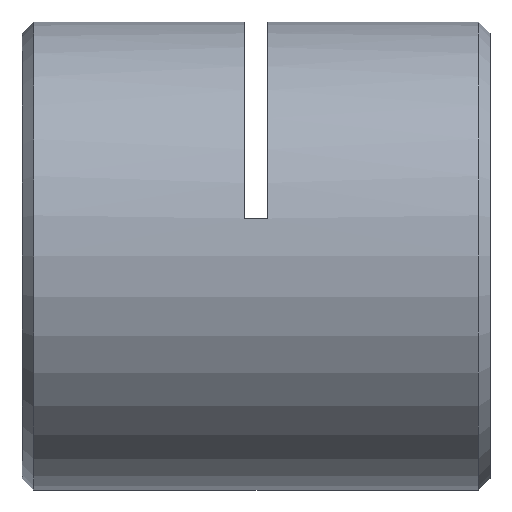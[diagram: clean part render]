
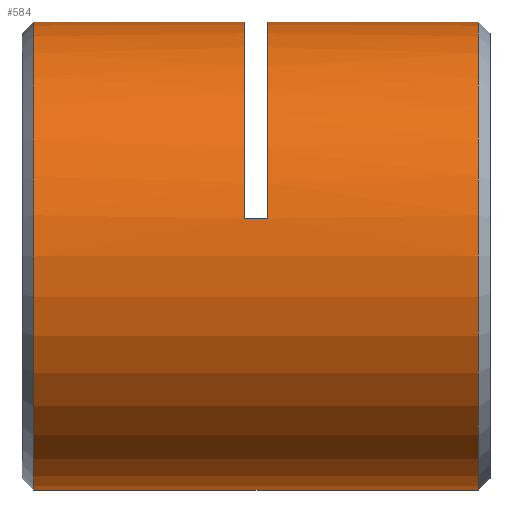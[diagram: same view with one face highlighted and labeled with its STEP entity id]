
A CAD part, left-side view. The second image highlights one B-rep face of the part: STEP entity #584.
In plain terms, the highlighted cylindrical face has radius 8 mm (diameter 16 mm), a partial arc.
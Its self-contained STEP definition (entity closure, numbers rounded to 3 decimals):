
#18 = AXIS2_PLACEMENT_3D ( 'NONE', #2301, #2613, #803 ) ;
#49 = DIRECTION ( 'NONE',  ( 0., 1., 0. ) ) ;
#173 = CARTESIAN_POINT ( 'NONE',  ( 0., 0.25, -8. ) ) ;
#185 = CARTESIAN_POINT ( 'NONE',  ( 0., 8.65, 0. ) ) ;
#279 = VECTOR ( 'NONE', #2294, 1000. ) ;
#306 = CARTESIAN_POINT ( 'NONE',  ( -7.897, 8.65, 1.28 ) ) ;
#327 = ORIENTED_EDGE ( 'NONE', *, *, #3688, .T. ) ;
#328 = EDGE_CURVE ( 'NONE', #1794, #1675, #2095, .T. ) ;
#359 = DIRECTION ( 'NONE',  ( 0., 0., -1. ) ) ;
#454 = VERTEX_POINT ( 'NONE', #306 ) ;
#513 = LINE ( 'NONE', #749, #3670 ) ;
#537 = ORIENTED_EDGE ( 'NONE', *, *, #1293, .F. ) ;
#552 = CIRCLE ( 'NONE', #1360, 8. ) ;
#584 = ADVANCED_FACE ( 'NONE', ( #716 ), #2224, .T. ) ;
#646 = LINE ( 'NONE', #3506, #1843 ) ;
#716 = FACE_OUTER_BOUND ( 'NONE', #1252, .T. ) ;
#732 = ORIENTED_EDGE ( 'NONE', *, *, #863, .T. ) ;
#749 = CARTESIAN_POINT ( 'NONE',  ( 0., 0.25, 8. ) ) ;
#803 = DIRECTION ( 'NONE',  ( 0., 0., 1. ) ) ;
#863 = EDGE_CURVE ( 'NONE', #2241, #1601, #3257, .T. ) ;
#973 = CARTESIAN_POINT ( 'NONE',  ( 0., 15.85, 0. ) ) ;
#1012 = CARTESIAN_POINT ( 'NONE',  ( 0., 7.85, 0. ) ) ;
#1252 = EDGE_LOOP ( 'NONE', ( #537, #732, #1322, #2666, #2269, #327, #3848, #3640 ) ) ;
#1293 = EDGE_CURVE ( 'NONE', #2241, #1791, #1847, .T. ) ;
#1306 = DIRECTION ( 'NONE',  ( 0., 0., 1. ) ) ;
#1322 = ORIENTED_EDGE ( 'NONE', *, *, #3438, .T. ) ;
#1360 = AXIS2_PLACEMENT_3D ( 'NONE', #973, #2168, #359 ) ;
#1418 = CARTESIAN_POINT ( 'NONE',  ( 0., 0.25, 0. ) ) ;
#1428 = DIRECTION ( 'NONE',  ( 0., 0., 1. ) ) ;
#1580 = EDGE_CURVE ( 'NONE', #2962, #1791, #552, .T. ) ;
#1601 = VERTEX_POINT ( 'NONE', #3677 ) ;
#1622 = DIRECTION ( 'NONE',  ( 0., 1., 0. ) ) ;
#1664 = CARTESIAN_POINT ( 'NONE',  ( 0., 0.65, -8. ) ) ;
#1675 = VERTEX_POINT ( 'NONE', #2191 ) ;
#1712 = DIRECTION ( 'NONE',  ( 0., 0., 1. ) ) ;
#1791 = VERTEX_POINT ( 'NONE', #3165 ) ;
#1794 = VERTEX_POINT ( 'NONE', #1973 ) ;
#1811 = EDGE_CURVE ( 'NONE', #1794, #454, #646, .T. ) ;
#1843 = VECTOR ( 'NONE', #1622, 1000. ) ;
#1847 = LINE ( 'NONE', #173, #279 ) ;
#1912 = CARTESIAN_POINT ( 'NONE',  ( 0., 0.25, 8. ) ) ;
#1973 = CARTESIAN_POINT ( 'NONE',  ( -7.897, 7.85, 1.28 ) ) ;
#1995 = DIRECTION ( 'NONE',  ( 0., 1., 0. ) ) ;
#2095 = CIRCLE ( 'NONE', #2820, 8. ) ;
#2166 = VECTOR ( 'NONE', #49, 1000. ) ;
#2168 = DIRECTION ( 'NONE',  ( 0., -1., 0. ) ) ;
#2191 = CARTESIAN_POINT ( 'NONE',  ( 0., 7.85, 8. ) ) ;
#2224 = CYLINDRICAL_SURFACE ( 'NONE', #3528, 8. ) ;
#2241 = VERTEX_POINT ( 'NONE', #1664 ) ;
#2269 = ORIENTED_EDGE ( 'NONE', *, *, #1811, .T. ) ;
#2294 = DIRECTION ( 'NONE',  ( 0., 1., 0. ) ) ;
#2301 = CARTESIAN_POINT ( 'NONE',  ( 0., 0.65, 0. ) ) ;
#2388 = VERTEX_POINT ( 'NONE', #3576 ) ;
#2394 = AXIS2_PLACEMENT_3D ( 'NONE', #185, #2656, #1428 ) ;
#2613 = DIRECTION ( 'NONE',  ( 0., 1., 0. ) ) ;
#2656 = DIRECTION ( 'NONE',  ( 0., 1., 0. ) ) ;
#2666 = ORIENTED_EDGE ( 'NONE', *, *, #328, .F. ) ;
#2820 = AXIS2_PLACEMENT_3D ( 'NONE', #1012, #3430, #1306 ) ;
#2881 = CIRCLE ( 'NONE', #2394, 8. ) ;
#2962 = VERTEX_POINT ( 'NONE', #3769 ) ;
#2993 = LINE ( 'NONE', #1912, #2166 ) ;
#3165 = CARTESIAN_POINT ( 'NONE',  ( 0., 15.85, -8. ) ) ;
#3257 = CIRCLE ( 'NONE', #18, 8. ) ;
#3430 = DIRECTION ( 'NONE',  ( 0., 1., 0. ) ) ;
#3438 = EDGE_CURVE ( 'NONE', #1601, #1675, #2993, .T. ) ;
#3475 = DIRECTION ( 'NONE',  ( 0., 1., 0. ) ) ;
#3506 = CARTESIAN_POINT ( 'NONE',  ( -7.897, 8.25, 1.28 ) ) ;
#3528 = AXIS2_PLACEMENT_3D ( 'NONE', #1418, #1995, #1712 ) ;
#3570 = EDGE_CURVE ( 'NONE', #2388, #2962, #513, .T. ) ;
#3576 = CARTESIAN_POINT ( 'NONE',  ( 0., 8.65, 8. ) ) ;
#3640 = ORIENTED_EDGE ( 'NONE', *, *, #1580, .T. ) ;
#3670 = VECTOR ( 'NONE', #3475, 1000. ) ;
#3677 = CARTESIAN_POINT ( 'NONE',  ( 0., 0.65, 8. ) ) ;
#3688 = EDGE_CURVE ( 'NONE', #454, #2388, #2881, .T. ) ;
#3769 = CARTESIAN_POINT ( 'NONE',  ( 0., 15.85, 8. ) ) ;
#3848 = ORIENTED_EDGE ( 'NONE', *, *, #3570, .T. ) ;
